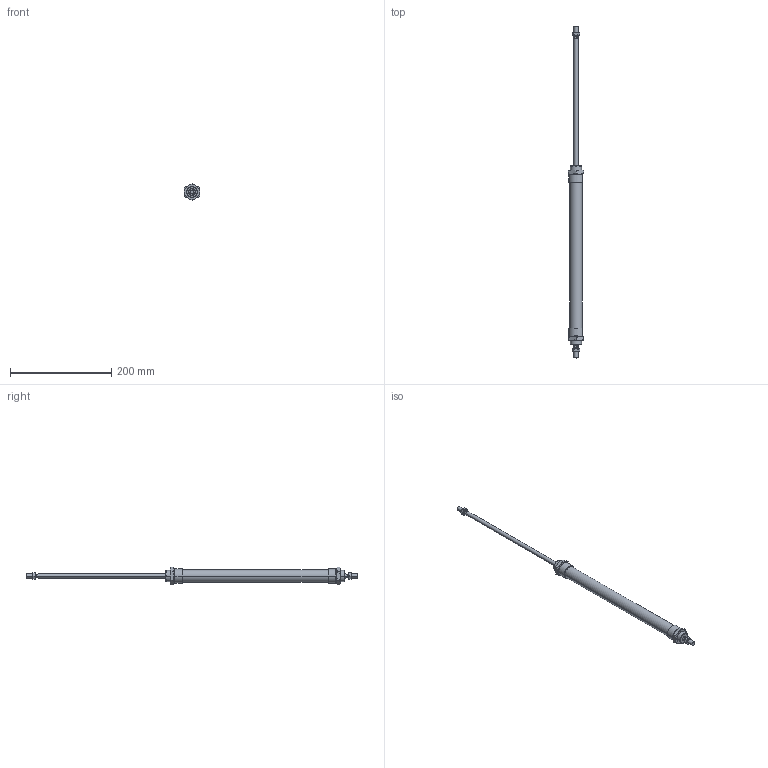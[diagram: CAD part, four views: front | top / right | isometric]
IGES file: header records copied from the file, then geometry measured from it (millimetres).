
Global section: file name: No Iges File Name specified; native system: AutoDesk Inventor R6.0; preprocessor: AutoDesk Inventor Iges Exporter R6.0; author: No Author specified; organization: No Organization specified; date: 20030403.072346; units: millimetre
Bounding box: 30 x 656 x 34.64 mm (x, y, z)
Volume: 183083.2 mm3; surface area: 58883.3 mm2
Topology: 6 solids, 6 shells, 186 faces, 414 edges, 244 vertices
Faces by surface type: cone 68, plane 60, bspline 32, cylinder 20, revolution 6
